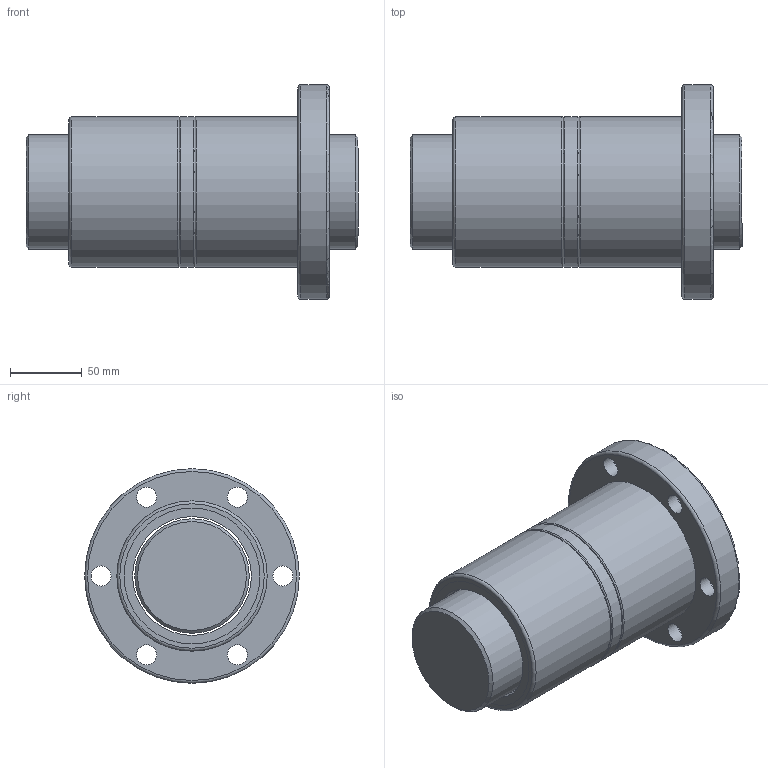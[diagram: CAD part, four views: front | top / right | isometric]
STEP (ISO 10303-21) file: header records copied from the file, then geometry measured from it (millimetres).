
FILE_DESCRIPTION(/* description */ (''),/* implementation_level */ '2;1');
FILE_NAME(/* name */ 'DFI8010',/* time_stamp */ '2007-10-26T11:53:02+08:00',/* author */ (''),/* organization */ (''),/* preprocessor_version */ 'ST-DEVELOPER v9',/* originating_system */ 'EDS PLM SOLUTIONS - UNIGRAPHICS NX 1.0',/* authorisation */ '');
FILE_SCHEMA (('CONFIG_CONTROL_DESIGN'));
Length unit declared in the file: millimetre
Products named in the file (1): FANNDA0400fx
Bounding box: 232 x 150 x 150 mm (x, y, z)
Volume: 1920468.9 mm3; surface area: 235902.5 mm2
Topology: 6 solids, 6 shells, 56 faces, 119 edges, 78 vertices
Faces by surface type: cylinder 26, plane 21, torus 7, cone 2
Full cylindrical faces by diameter (mm): 14 x6, 20 x6, 80 x1, 83 x5, 95 x4, 105 x3, 150 x1
Entity records: 1392 total; most frequent: DIRECTION 246, CARTESIAN_POINT 225, ORIENTED_EDGE 144, AXIS2_PLACEMENT_3D 123, EDGE_LOOP 116, FACE_BOUND 93, EDGE_CURVE 72, VERTEX_POINT 66
